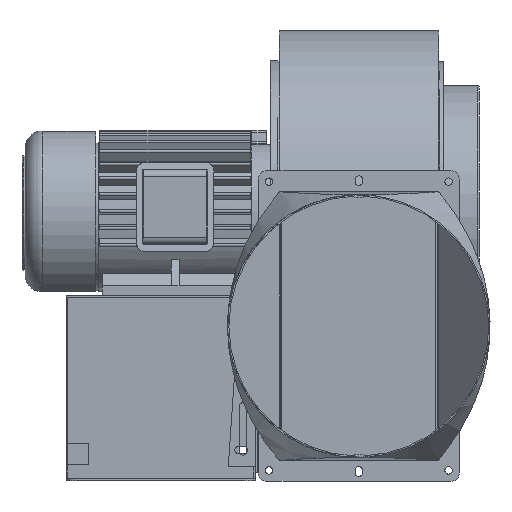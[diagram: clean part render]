
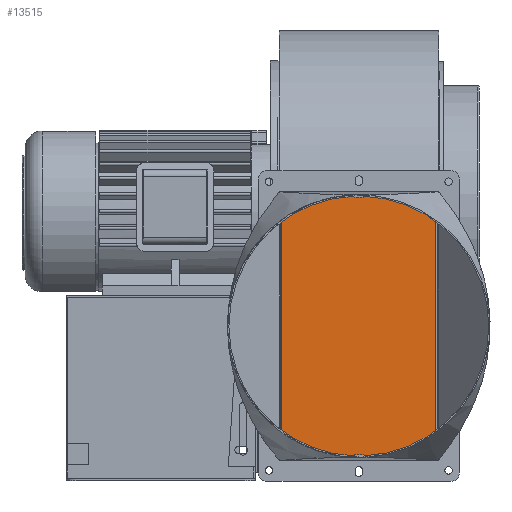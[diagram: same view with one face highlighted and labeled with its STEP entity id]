
A CAD part, front view. The second image highlights one B-rep face of the part: STEP entity #13515.
In plain terms, the highlighted planar face has unit normal (0, -1, 0) as drawn and (1, 0, 0) by its records, which use the part's own axes.
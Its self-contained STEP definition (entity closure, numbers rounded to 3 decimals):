
#1437=PLANE('',#15020);
#2544=LINE('',#22704,#3740);
#2548=LINE('',#22713,#3744);
#2552=LINE('',#22722,#3748);
#2554=LINE('',#22725,#3750);
#3740=VECTOR('',#18642,1000.);
#3744=VECTOR('',#18648,1000.);
#3748=VECTOR('',#18654,1000.);
#3750=VECTOR('',#18658,1000.);
#7574=ORIENTED_EDGE('',*,*,#9302,.T.);
#7575=ORIENTED_EDGE('',*,*,#9292,.F.);
#7576=ORIENTED_EDGE('',*,*,#9300,.F.);
#7577=ORIENTED_EDGE('',*,*,#9296,.T.);
#9292=EDGE_CURVE('',#10606,#10607,#2544,.T.);
#9296=EDGE_CURVE('',#10610,#10611,#2548,.T.);
#9300=EDGE_CURVE('',#10610,#10606,#2552,.T.);
#9302=EDGE_CURVE('',#10611,#10607,#2554,.T.);
#10606=VERTEX_POINT('',#22705);
#10607=VERTEX_POINT('',#22706);
#10610=VERTEX_POINT('',#22714);
#10611=VERTEX_POINT('',#22715);
#11757=EDGE_LOOP('',(#7574,#7575,#7576,#7577));
#12781=FACE_BOUND('',#11757,.T.);
#13515=ADVANCED_FACE('',(#12781),#1437,.F.);
#15020=AXIS2_PLACEMENT_3D('',#23170,#18986,#18987);
#18642=DIRECTION('',(0.,1.,0.));
#18648=DIRECTION('',(0.,1.,0.));
#18654=DIRECTION('',(0.,0.,1.));
#18658=DIRECTION('',(0.,0.,1.));
#18986=DIRECTION('',(-1.,0.,0.));
#18987=DIRECTION('',(0.,0.,1.));
#22704=CARTESIAN_POINT('',(207.,-88.2,277.));
#22705=CARTESIAN_POINT('',(207.,-88.2,277.));
#22706=CARTESIAN_POINT('',(207.,88.2,277.));
#22713=CARTESIAN_POINT('',(207.,-91.2,-27.));
#22714=CARTESIAN_POINT('',(207.,-88.2,-27.));
#22715=CARTESIAN_POINT('',(207.,88.2,-27.));
#22722=CARTESIAN_POINT('',(207.,-88.2,-130.203));
#22725=CARTESIAN_POINT('',(207.,88.2,-130.203));
#23170=CARTESIAN_POINT('',(207.,-88.2,-130.203));
